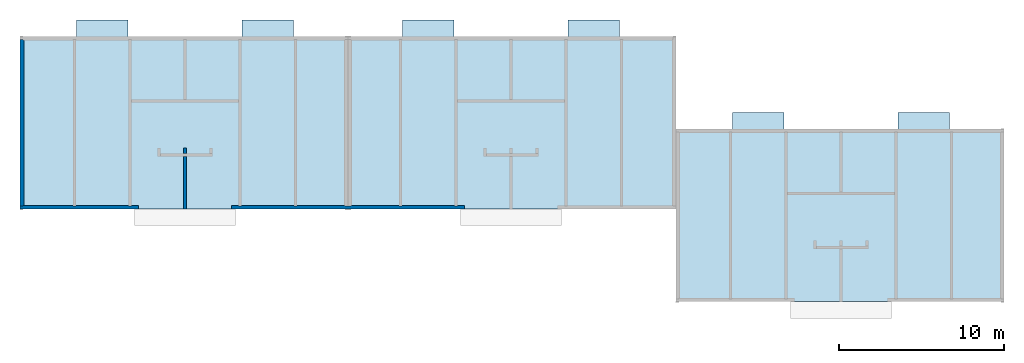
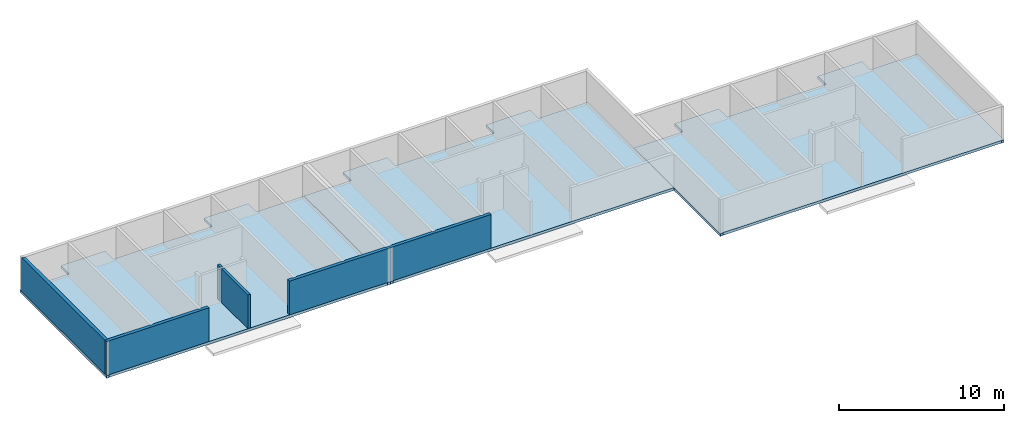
# One storey, part 8 of 10: 5 walls, 3 slabs.
"""IFC2X3 building model written with IfcOpenShell, lengths in metres."""

from ifc_helpers import new_model, si_unit, frame, origin, place, context, project, spatial, faceted_brep, element, save


model = new_model("IFC2X3")

# Units and contexts
model_context = context("Model", 3, precision=1e-06, world=origin())
ifc_project = project(units=[si_unit("LENGTHUNIT", "METRE"), si_unit("PLANEANGLEUNIT", "RADIAN")], contexts=[model_context])

# Site, building, storey
site = spatial("IfcSite", under=ifc_project, CompositionType="ELEMENT")
building = spatial("IfcBuilding", under=site, CompositionType="ELEMENT")
storey = spatial("IfcBuildingStorey", under=building, Name="r+1", CompositionType="ELEMENT", Elevation=2.7)

# Slabs
placement = place(None, origin())
slab_1_placement = place(placement, frame((-6e-15, 0.0, 2.5), z_axis=(0.0, 0.0, 1.0), x_axis=(1.0, 0.0, 0.0)))
element("IfcSlab", 1, at=slab_1_placement, inside=storey, PredefinedType="USERDEFINED", context=model_context, shape_type="Brep", body=[
    faceted_brep([(0.180000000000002, 10.49007776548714, 0.2), (0.180000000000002, 10.47007776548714, 0.2), (0.180000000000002, 10.47007776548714, 0.0), (0.180000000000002, 10.49007776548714, 0.0), (0.180000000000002, 10.47007776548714, 0.2), (3.430000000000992, 10.470077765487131, 0.2), (3.430000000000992, 10.470077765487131, 0.0), (0.180000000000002, 10.47007776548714, 0.0), (3.430000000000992, 10.470077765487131, 0.2), (3.430000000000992, 11.47007775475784, 0.2), (3.430000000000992, 11.47007775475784, 0.0), (3.430000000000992, 10.470077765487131, 0.0), (3.430000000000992, 11.47007775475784, 0.2), (6.530000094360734, 11.47007760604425, 0.2), (6.530000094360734, 11.47007760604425, 0.0), (3.430000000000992, 11.47007775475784, 0.0), (6.530000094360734, 11.47007760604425, 0.2), (6.530000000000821, 10.47007768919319, 0.2), (6.530000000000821, 10.47007768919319, 0.0), (6.530000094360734, 11.47007760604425, 0.0), (6.530000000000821, 10.47007768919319, 0.2), (13.44, 10.47007775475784, 0.2), (13.44, 10.47007775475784, 0.0), (6.530000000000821, 10.47007768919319, 0.0), (13.44, 10.47007775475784, 0.2), (13.439598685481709, 11.47007760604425, 0.2), (13.439598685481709, 11.47007760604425, 0.0), (13.44, 10.47007775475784, 0.0), (13.439598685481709, 11.47007760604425, 0.2), (16.539598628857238, 11.47007760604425, 0.2), (16.539598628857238, 11.47007760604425, 0.0), (13.439598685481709, 11.47007760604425, 0.0), (16.539598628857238, 11.47007760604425, 0.2), (16.53999999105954, 10.47007768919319, 0.2), (16.53999999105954, 10.47007768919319, 0.0), (16.539598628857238, 11.47007760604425, 0.0), (16.53999999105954, 10.47007768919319, 0.2), (19.669999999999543, 10.470077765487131, 0.2), (19.669999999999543, 10.470077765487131, 0.0), (16.53999999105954, 10.47007768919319, 0.0), (19.669999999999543, 10.470077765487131, 0.2), (19.669999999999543, 10.49007776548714, 0.2), (19.669999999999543, 10.49007776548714, 0.0), (19.669999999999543, 10.470077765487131, 0.0), (19.669999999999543, 10.49007776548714, 0.2), (19.849999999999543, 10.49007776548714, 0.2), (19.849999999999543, 10.49007776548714, 0.0), (19.669999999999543, 10.49007776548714, 0.0), (19.849999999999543, 10.49007776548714, 0.2), (19.849999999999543, 2e-15, 0.2), (19.849999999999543, 2e-15, 0.0), (19.849999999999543, 10.49007776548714, 0.0), (19.849999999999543, 2e-15, 0.2), (19.669999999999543, 2e-15, 0.2), (19.669999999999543, 2e-15, 0.0), (19.849999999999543, 2e-15, 0.0), (19.669999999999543, 2e-15, 0.2), (19.669999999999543, 0.02016279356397, 0.2), (19.669999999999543, 0.02016279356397, 0.0), (19.669999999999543, 2e-15, 0.0), (19.669999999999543, 0.02016279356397, 0.2), (13.045000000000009, 0.02016279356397, 0.2), (13.045000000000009, 0.02016279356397, 0.0), (19.669999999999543, 0.02016279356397, 0.0), (13.045000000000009, 0.02016279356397, 0.2), (6.925000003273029, 0.020077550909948, 0.2), (6.925000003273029, 0.020077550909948, 0.0), (13.045000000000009, 0.02016279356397, 0.0), (6.925000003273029, 0.020077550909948, 0.2), (0.18, 0.020077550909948, 0.2), (0.18, 0.020077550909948, 0.0), (6.925000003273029, 0.020077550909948, 0.0), (0.18, 0.020077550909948, 0.2), (0.18, 0.0, 0.2), (0.18, 0.0, 0.0), (0.18, 0.020077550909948, 0.0), (0.18, 0.0, 0.2), (0.0, 0.0, 0.2), (0.0, 0.0, 0.0), (0.18, 0.0, 0.0), (0.0, 0.0, 0.2), (2e-15, 10.49007776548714, 0.2), (2e-15, 10.49007776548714, 0.0), (0.0, 0.0, 0.0), (2e-15, 10.49007776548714, 0.2), (0.180000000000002, 10.49007776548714, 0.2), (0.180000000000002, 10.49007776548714, 0.0), (2e-15, 10.49007776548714, 0.0), (0.180000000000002, 10.49007776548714, 0.2), (2e-15, 10.49007776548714, 0.2), (0.0, 0.0, 0.2), (0.18, 0.0, 0.2), (0.18, 0.020077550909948, 0.2), (6.925000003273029, 0.020077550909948, 0.2), (13.045000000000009, 0.02016279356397, 0.2), (19.669999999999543, 0.02016279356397, 0.2), (19.669999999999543, 2e-15, 0.2), (19.849999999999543, 2e-15, 0.2), (19.849999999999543, 10.49007776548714, 0.2), (19.669999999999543, 10.49007776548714, 0.2), (19.669999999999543, 10.470077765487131, 0.2), (16.53999999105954, 10.47007768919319, 0.2), (16.539598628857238, 11.47007760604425, 0.2), (13.439598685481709, 11.47007760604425, 0.2), (13.44, 10.47007775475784, 0.2), (6.530000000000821, 10.47007768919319, 0.2), (6.530000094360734, 11.47007760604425, 0.2), (3.430000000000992, 11.47007775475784, 0.2), (3.430000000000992, 10.470077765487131, 0.2), (0.180000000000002, 10.47007776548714, 0.2), (0.180000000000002, 10.49007776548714, 0.0), (0.180000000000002, 10.47007776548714, 0.0), (3.430000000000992, 10.470077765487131, 0.0), (3.430000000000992, 11.47007775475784, 0.0), (6.530000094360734, 11.47007760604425, 0.0), (6.530000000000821, 10.47007768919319, 0.0), (13.44, 10.47007775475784, 0.0), (13.439598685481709, 11.47007760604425, 0.0), (16.539598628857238, 11.47007760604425, 0.0), (16.53999999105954, 10.47007768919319, 0.0), (19.669999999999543, 10.470077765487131, 0.0), (19.669999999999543, 10.49007776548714, 0.0), (19.849999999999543, 10.49007776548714, 0.0), (19.849999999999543, 2e-15, 0.0), (19.669999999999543, 2e-15, 0.0), (19.669999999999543, 0.02016279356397, 0.0), (13.045000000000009, 0.02016279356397, 0.0), (6.925000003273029, 0.020077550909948, 0.0), (0.18, 0.020077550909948, 0.0), (0.18, 0.0, 0.0), (0.0, 0.0, 0.0), (2e-15, 10.49007776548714, 0.0)], [[[0, 1, 2, 3]], [[4, 5, 6, 7]], [[8, 9, 10, 11]], [[12, 13, 14, 15]], [[16, 17, 18, 19]], [[20, 21, 22, 23]], [[24, 25, 26, 27]], [[28, 29, 30, 31]], [[32, 33, 34, 35]], [[36, 37, 38, 39]], [[40, 41, 42, 43]], [[44, 45, 46, 47]], [[48, 49, 50, 51]], [[52, 53, 54, 55]], [[56, 57, 58, 59]], [[60, 61, 62, 63]], [[64, 65, 66, 67]], [[68, 69, 70, 71]], [[72, 73, 74, 75]], [[76, 77, 78, 79]], [[80, 81, 82, 83]], [[84, 85, 86, 87]], [[88, 89, 90, 91, 92, 93, 94, 95, 96, 97, 98, 99, 100, 101, 102, 103, 104, 105, 106, 107, 108, 109]], [[110, 111, 112, 113, 114, 115, 116, 117, 118, 119, 120, 121, 122, 123, 124, 125, 126, 127, 128, 129, 130, 131]]]),
])
slab_2_placement = place(placement, frame((19.849999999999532, 2e-15, 2.5), z_axis=(0.0, 0.0, 1.0), x_axis=(1.0, 0.0, 0.0)))
element("IfcSlab", 2, at=slab_2_placement, inside=storey, PredefinedType="USERDEFINED", context=model_context, shape_type="Brep", body=[
    faceted_brep([(0.180000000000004, 10.490077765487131, 0.2), (0.180000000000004, 10.470077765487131, 0.2), (0.180000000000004, 10.470077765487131, 0.0), (0.180000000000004, 10.490077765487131, 0.0), (0.180000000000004, 10.470077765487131, 0.2), (3.310000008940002, 10.47007768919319, 0.2), (3.310000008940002, 10.47007768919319, 0.0), (0.180000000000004, 10.470077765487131, 0.0), (3.310000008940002, 10.47007768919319, 0.2), (3.310401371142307, 11.47007760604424, 0.2), (3.310401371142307, 11.47007760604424, 0.0), (3.310000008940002, 10.47007768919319, 0.0), (3.310401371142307, 11.47007760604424, 0.2), (6.410401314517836, 11.47007760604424, 0.2), (6.410401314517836, 11.47007760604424, 0.0), (3.310401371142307, 11.47007760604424, 0.0), (6.410401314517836, 11.47007760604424, 0.2), (6.409999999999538, 10.47007775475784, 0.2), (6.409999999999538, 10.47007775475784, 0.0), (6.410401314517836, 11.47007760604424, 0.0), (6.409999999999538, 10.47007775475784, 0.2), (13.31999999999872, 10.47007768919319, 0.2), (13.31999999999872, 10.47007768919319, 0.0), (6.409999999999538, 10.47007775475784, 0.0), (13.31999999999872, 10.47007768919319, 0.2), (13.31999990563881, 11.47007760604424, 0.2), (13.31999990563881, 11.47007760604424, 0.0), (13.31999999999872, 10.47007768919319, 0.0), (13.31999990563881, 11.47007760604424, 0.2), (16.41999999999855, 11.47007775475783, 0.2), (16.41999999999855, 11.47007775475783, 0.0), (13.31999990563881, 11.47007760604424, 0.0), (16.41999999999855, 11.47007775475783, 0.2), (16.41999999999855, 10.470077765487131, 0.2), (16.41999999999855, 10.470077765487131, 0.0), (16.41999999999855, 11.47007775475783, 0.0), (16.41999999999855, 10.470077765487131, 0.2), (19.669999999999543, 10.470077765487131, 0.2), (19.669999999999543, 10.470077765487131, 0.0), (16.41999999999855, 10.470077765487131, 0.0), (19.669999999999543, 10.470077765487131, 0.2), (19.669999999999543, 10.490077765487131, 0.2), (19.669999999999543, 10.490077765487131, 0.0), (19.669999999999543, 10.470077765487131, 0.0), (19.669999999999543, 10.490077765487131, 0.2), (19.849999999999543, 10.490077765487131, 0.2), (19.849999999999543, 10.490077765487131, 0.0), (19.669999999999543, 10.490077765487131, 0.0), (19.849999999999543, 10.490077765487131, 0.2), (19.849999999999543, 0.020077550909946, 0.2), (19.849999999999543, 0.020077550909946, 0.0), (19.849999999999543, 10.490077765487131, 0.0), (19.849999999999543, 0.020077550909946, 0.2), (12.92499999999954, 0.020077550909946, 0.2), (12.92499999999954, 0.020077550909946, 0.0), (19.849999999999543, 0.020077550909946, 0.0), (12.92499999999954, 0.020077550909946, 0.2), (6.805000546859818, 0.020077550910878, 0.2), (6.805000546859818, 0.020077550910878, 0.0), (12.92499999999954, 0.020077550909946, 0.0), (6.805000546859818, 0.020077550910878, 0.2), (6.805000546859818, 0.020162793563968, 0.2), (6.805000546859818, 0.020162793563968, 0.0), (6.805000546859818, 0.020077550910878, 0.0), (6.805000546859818, 0.020162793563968, 0.2), (0.18, 0.020162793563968, 0.2), (0.18, 0.020162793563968, 0.0), (6.805000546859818, 0.020162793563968, 0.0), (0.18, 0.020162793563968, 0.2), (0.18, 0.0, 0.2), (0.18, 0.0, 0.0), (0.18, 0.020162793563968, 0.0), (0.18, 0.0, 0.2), (0.0, 0.0, 0.2), (0.0, 0.0, 0.0), (0.18, 0.0, 0.0), (0.0, 0.0, 0.2), (4e-15, 10.490077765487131, 0.2), (4e-15, 10.490077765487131, 0.0), (0.0, 0.0, 0.0), (4e-15, 10.490077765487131, 0.2), (0.180000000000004, 10.490077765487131, 0.2), (0.180000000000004, 10.490077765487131, 0.0), (4e-15, 10.490077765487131, 0.0), (0.180000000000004, 10.490077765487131, 0.2), (4e-15, 10.490077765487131, 0.2), (0.0, 0.0, 0.2), (0.18, 0.0, 0.2), (0.18, 0.020162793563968, 0.2), (6.805000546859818, 0.020162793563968, 0.2), (6.805000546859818, 0.020077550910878, 0.2), (12.92499999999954, 0.020077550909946, 0.2), (19.849999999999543, 0.020077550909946, 0.2), (19.849999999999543, 10.490077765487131, 0.2), (19.669999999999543, 10.490077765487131, 0.2), (19.669999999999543, 10.470077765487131, 0.2), (16.41999999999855, 10.470077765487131, 0.2), (16.41999999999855, 11.47007775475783, 0.2), (13.31999990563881, 11.47007760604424, 0.2), (13.31999999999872, 10.47007768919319, 0.2), (6.409999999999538, 10.47007775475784, 0.2), (6.410401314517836, 11.47007760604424, 0.2), (3.310401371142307, 11.47007760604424, 0.2), (3.310000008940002, 10.47007768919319, 0.2), (0.180000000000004, 10.470077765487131, 0.2), (0.180000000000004, 10.490077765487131, 0.0), (0.180000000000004, 10.470077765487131, 0.0), (3.310000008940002, 10.47007768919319, 0.0), (3.310401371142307, 11.47007760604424, 0.0), (6.410401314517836, 11.47007760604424, 0.0), (6.409999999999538, 10.47007775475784, 0.0), (13.31999999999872, 10.47007768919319, 0.0), (13.31999990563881, 11.47007760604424, 0.0), (16.41999999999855, 11.47007775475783, 0.0), (16.41999999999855, 10.470077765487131, 0.0), (19.669999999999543, 10.470077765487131, 0.0), (19.669999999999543, 10.490077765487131, 0.0), (19.849999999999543, 10.490077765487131, 0.0), (19.849999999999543, 0.020077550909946, 0.0), (12.92499999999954, 0.020077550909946, 0.0), (6.805000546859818, 0.020077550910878, 0.0), (6.805000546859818, 0.020162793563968, 0.0), (0.18, 0.020162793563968, 0.0), (0.18, 0.0, 0.0), (0.0, 0.0, 0.0), (4e-15, 10.490077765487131, 0.0)], [[[0, 1, 2, 3]], [[4, 5, 6, 7]], [[8, 9, 10, 11]], [[12, 13, 14, 15]], [[16, 17, 18, 19]], [[20, 21, 22, 23]], [[24, 25, 26, 27]], [[28, 29, 30, 31]], [[32, 33, 34, 35]], [[36, 37, 38, 39]], [[40, 41, 42, 43]], [[44, 45, 46, 47]], [[48, 49, 50, 51]], [[52, 53, 54, 55]], [[56, 57, 58, 59]], [[60, 61, 62, 63]], [[64, 65, 66, 67]], [[68, 69, 70, 71]], [[72, 73, 74, 75]], [[76, 77, 78, 79]], [[80, 81, 82, 83]], [[84, 85, 86, 87, 88, 89, 90, 91, 92, 93, 94, 95, 96, 97, 98, 99, 100, 101, 102, 103, 104]], [[105, 106, 107, 108, 109, 110, 111, 112, 113, 114, 115, 116, 117, 118, 119, 120, 121, 122, 123, 124, 125]]]),
])
slab_3_placement = place(placement, frame((39.69999999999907, -5.599999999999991, 2.5), z_axis=(0.0, 0.0, 1.0), x_axis=(1.0, 0.0, 0.0)))
element("IfcSlab", 3, at=slab_3_placement, inside=storey, PredefinedType="USERDEFINED", context=model_context, shape_type="Brep", body=[
    faceted_brep([(0.18, 10.47007776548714, 0.2), (3.430000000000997, 10.470077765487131, 0.2), (3.430000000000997, 10.470077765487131, 0.0), (0.18, 10.47007776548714, 0.0), (3.430000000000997, 10.470077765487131, 0.2), (3.430000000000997, 11.47007775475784, 0.2), (3.430000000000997, 11.47007775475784, 0.0), (3.430000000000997, 10.470077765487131, 0.0), (3.430000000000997, 11.47007775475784, 0.2), (6.530000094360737, 11.47007760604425, 0.2), (6.530000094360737, 11.47007760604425, 0.0), (3.430000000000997, 11.47007775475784, 0.0), (6.530000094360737, 11.47007760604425, 0.2), (6.530000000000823, 10.47007768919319, 0.2), (6.530000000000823, 10.47007768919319, 0.0), (6.530000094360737, 11.47007760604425, 0.0), (6.530000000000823, 10.47007768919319, 0.2), (13.44000000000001, 10.47007775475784, 0.2), (13.44000000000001, 10.47007775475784, 0.0), (6.530000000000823, 10.47007768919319, 0.0), (13.44000000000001, 10.47007775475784, 0.2), (13.439598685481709, 11.47007760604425, 0.2), (13.439598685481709, 11.47007760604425, 0.0), (13.44000000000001, 10.47007775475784, 0.0), (13.439598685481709, 11.47007760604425, 0.2), (16.539598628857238, 11.47007760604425, 0.2), (16.539598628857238, 11.47007760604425, 0.0), (13.439598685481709, 11.47007760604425, 0.0), (16.539598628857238, 11.47007760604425, 0.2), (16.53999999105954, 10.47007768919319, 0.2), (16.53999999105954, 10.47007768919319, 0.0), (16.539598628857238, 11.47007760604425, 0.0), (16.53999999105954, 10.47007768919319, 0.2), (19.669999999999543, 10.470077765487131, 0.2), (19.669999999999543, 10.470077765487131, 0.0), (16.53999999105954, 10.47007768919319, 0.0), (19.669999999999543, 10.470077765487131, 0.2), (19.669999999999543, 10.49007776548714, 0.2), (19.669999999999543, 10.49007776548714, 0.0), (19.669999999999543, 10.470077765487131, 0.0), (19.669999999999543, 10.49007776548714, 0.2), (19.849999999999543, 10.49007776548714, 0.2), (19.849999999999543, 10.49007776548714, 0.0), (19.669999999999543, 10.49007776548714, 0.0), (19.849999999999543, 10.49007776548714, 0.2), (19.849999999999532, 2e-15, 0.2), (19.849999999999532, 2e-15, 0.0), (19.849999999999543, 10.49007776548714, 0.0), (19.849999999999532, 2e-15, 0.2), (19.669999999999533, 2e-15, 0.2), (19.669999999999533, 2e-15, 0.0), (19.849999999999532, 2e-15, 0.0), (19.669999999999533, 2e-15, 0.2), (19.669999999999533, 0.02016279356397, 0.2), (19.669999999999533, 0.02016279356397, 0.0), (19.669999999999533, 2e-15, 0.0), (19.669999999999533, 0.02016279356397, 0.2), (13.04500000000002, 0.02016279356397, 0.2), (13.04500000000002, 0.02016279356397, 0.0), (19.669999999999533, 0.02016279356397, 0.0), (13.04500000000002, 0.02016279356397, 0.2), (6.925000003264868, 0.020077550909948, 0.2), (6.925000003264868, 0.020077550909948, 0.0), (13.04500000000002, 0.02016279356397, 0.0), (6.925000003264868, 0.020077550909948, 0.2), (0.18, 0.020077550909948, 0.2), (0.18, 0.020077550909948, 0.0), (6.925000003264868, 0.020077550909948, 0.0), (0.18, 0.020077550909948, 0.2), (0.18, 0.0, 0.2), (0.18, 0.0, 0.0), (0.18, 0.020077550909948, 0.0), (0.18, 0.0, 0.2), (0.0, 0.0, 0.2), (0.0, 0.0, 0.0), (0.18, 0.0, 0.0), (0.0, 0.0, 0.2), (7e-15, 10.47007776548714, 0.2), (7e-15, 10.47007776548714, 0.0), (0.0, 0.0, 0.0), (7e-15, 10.47007776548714, 0.2), (0.18, 10.47007776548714, 0.2), (0.18, 10.47007776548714, 0.0), (7e-15, 10.47007776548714, 0.0), (0.18, 10.47007776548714, 0.2), (7e-15, 10.47007776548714, 0.2), (0.0, 0.0, 0.2), (0.18, 0.0, 0.2), (0.18, 0.020077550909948, 0.2), (6.925000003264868, 0.020077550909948, 0.2), (13.04500000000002, 0.02016279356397, 0.2), (19.669999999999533, 0.02016279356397, 0.2), (19.669999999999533, 2e-15, 0.2), (19.849999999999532, 2e-15, 0.2), (19.849999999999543, 10.49007776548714, 0.2), (19.669999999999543, 10.49007776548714, 0.2), (19.669999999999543, 10.470077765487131, 0.2), (16.53999999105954, 10.47007768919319, 0.2), (16.539598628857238, 11.47007760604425, 0.2), (13.439598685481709, 11.47007760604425, 0.2), (13.44000000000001, 10.47007775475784, 0.2), (6.530000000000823, 10.47007768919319, 0.2), (6.530000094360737, 11.47007760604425, 0.2), (3.430000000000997, 11.47007775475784, 0.2), (3.430000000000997, 10.470077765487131, 0.2), (0.18, 10.47007776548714, 0.0), (3.430000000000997, 10.470077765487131, 0.0), (3.430000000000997, 11.47007775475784, 0.0), (6.530000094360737, 11.47007760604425, 0.0), (6.530000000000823, 10.47007768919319, 0.0), (13.44000000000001, 10.47007775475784, 0.0), (13.439598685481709, 11.47007760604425, 0.0), (16.539598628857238, 11.47007760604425, 0.0), (16.53999999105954, 10.47007768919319, 0.0), (19.669999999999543, 10.470077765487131, 0.0), (19.669999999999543, 10.49007776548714, 0.0), (19.849999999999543, 10.49007776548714, 0.0), (19.849999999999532, 2e-15, 0.0), (19.669999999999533, 2e-15, 0.0), (19.669999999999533, 0.02016279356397, 0.0), (13.04500000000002, 0.02016279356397, 0.0), (6.925000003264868, 0.020077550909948, 0.0), (0.18, 0.020077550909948, 0.0), (0.18, 0.0, 0.0), (0.0, 0.0, 0.0), (7e-15, 10.47007776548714, 0.0)], [[[0, 1, 2, 3]], [[4, 5, 6, 7]], [[8, 9, 10, 11]], [[12, 13, 14, 15]], [[16, 17, 18, 19]], [[20, 21, 22, 23]], [[24, 25, 26, 27]], [[28, 29, 30, 31]], [[32, 33, 34, 35]], [[36, 37, 38, 39]], [[40, 41, 42, 43]], [[44, 45, 46, 47]], [[48, 49, 50, 51]], [[52, 53, 54, 55]], [[56, 57, 58, 59]], [[60, 61, 62, 63]], [[64, 65, 66, 67]], [[68, 69, 70, 71]], [[72, 73, 74, 75]], [[76, 77, 78, 79]], [[80, 81, 82, 83]], [[84, 85, 86, 87, 88, 89, 90, 91, 92, 93, 94, 95, 96, 97, 98, 99, 100, 101, 102, 103, 104]], [[105, 106, 107, 108, 109, 110, 111, 112, 113, 114, 115, 116, 117, 118, 119, 120, 121, 122, 123, 124, 125]]]),
])

# Walls
wall_1_placement = place(placement, frame((-4e-15, 10.29007776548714, 2.7), z_axis=(0.0, 0.0, 1.0), x_axis=(0.0, -1.0, 0.0)))
element("IfcWall", 4, at=wall_1_placement, inside=storey, context=model_context, shape_type="Brep", body=[
    faceted_brep([(0.04, 0.18, 2.5), (0.04, 0.22, 2.5), (0.04, 0.22, 0.0), (0.04, 0.18, 0.0), (0.04, 0.22, 2.5), (0.05, 0.22, 2.5), (0.05, 0.22, 0.0), (0.04, 0.22, 0.0), (0.05, 0.22, 2.5), (0.05, 0.23, 2.5), (0.05, 0.23, 0.0), (0.05, 0.22, 0.0), (0.05, 0.23, 2.5), (10.04000021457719, 0.23, 2.5), (10.04000021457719, 0.23, 0.0), (0.05, 0.23, 0.0), (10.04000021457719, 0.23, 2.5), (10.04000021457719, 0.22, 2.5), (10.04000021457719, 0.22, 0.0), (10.04000021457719, 0.23, 0.0), (10.04000021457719, 0.22, 2.5), (10.05000021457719, 0.22, 2.5), (10.05000021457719, 0.22, 0.0), (10.04000021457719, 0.22, 0.0), (10.05000021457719, 0.22, 2.5), (10.05000021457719, 0.18, 2.5), (10.05000021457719, 0.18, 0.0), (10.05000021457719, 0.22, 0.0), (10.05000021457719, 0.18, 2.5), (10.090000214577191, 0.18, 2.5), (10.090000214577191, 0.18, 0.0), (10.05000021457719, 0.18, 0.0), (10.090000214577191, 0.18, 2.5), (10.090000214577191, 0.0, 2.5), (10.090000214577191, 0.0, 0.0), (10.090000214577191, 0.18, 0.0), (10.090000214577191, 0.0, 2.5), (0.0, 0.0, 2.5), (0.0, 0.0, 0.0), (10.090000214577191, 0.0, 0.0), (0.0, 0.0, 2.5), (0.0, 0.18, 2.5), (0.0, 0.18, 0.0), (0.0, 0.0, 0.0), (0.0, 0.18, 2.5), (0.04, 0.18, 2.5), (0.04, 0.18, 0.0), (0.0, 0.18, 0.0), (0.04, 0.18, 2.5), (0.0, 0.18, 2.5), (0.0, 0.0, 2.5), (10.090000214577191, 0.0, 2.5), (10.090000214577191, 0.18, 2.5), (10.05000021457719, 0.18, 2.5), (10.05000021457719, 0.22, 2.5), (10.04000021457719, 0.22, 2.5), (10.04000021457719, 0.23, 2.5), (0.05, 0.23, 2.5), (0.05, 0.22, 2.5), (0.04, 0.22, 2.5), (0.04, 0.18, 0.0), (0.04, 0.22, 0.0), (0.05, 0.22, 0.0), (0.05, 0.23, 0.0), (10.04000021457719, 0.23, 0.0), (10.04000021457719, 0.22, 0.0), (10.05000021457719, 0.22, 0.0), (10.05000021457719, 0.18, 0.0), (10.090000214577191, 0.18, 0.0), (10.090000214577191, 0.0, 0.0), (0.0, 0.0, 0.0), (0.0, 0.18, 0.0)], [[[0, 1, 2, 3]], [[4, 5, 6, 7]], [[8, 9, 10, 11]], [[12, 13, 14, 15]], [[16, 17, 18, 19]], [[20, 21, 22, 23]], [[24, 25, 26, 27]], [[28, 29, 30, 31]], [[32, 33, 34, 35]], [[36, 37, 38, 39]], [[40, 41, 42, 43]], [[44, 45, 46, 47]], [[48, 49, 50, 51, 52, 53, 54, 55, 56, 57, 58, 59]], [[60, 61, 62, 63, 64, 65, 66, 67, 68, 69, 70, 71]]]),
])
wall_2_placement = place(placement, frame((12.795000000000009, 0.02016279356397, 2.7), z_axis=(0.0, 0.0, 1.0), x_axis=(1.0, 0.0, 0.0)))
element("IfcWall", 5, at=wall_2_placement, inside=storey, context=model_context, shape_type="Brep", body=[
    faceted_brep([(10.13499999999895, 0.179914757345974, 2.5), (10.314999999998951, 0.179914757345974, 2.5), (10.314999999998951, 0.179914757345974, 0.0), (10.13499999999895, 0.179914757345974, 0.0), (10.314999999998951, 0.179914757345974, 2.5), (10.314999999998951, 0.23, 2.5), (10.314999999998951, 0.23, 0.0), (10.314999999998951, 0.179914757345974, 0.0), (10.314999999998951, 0.23, 2.5), (13.5150000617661, 0.23, 2.5), (13.5150000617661, 0.23, 0.0), (10.314999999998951, 0.23, 0.0), (13.5150000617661, 0.23, 2.5), (13.5150000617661, 0.179914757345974, 2.5), (13.5150000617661, 0.179914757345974, 0.0), (13.5150000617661, 0.23, 0.0), (13.5150000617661, 0.179914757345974, 2.5), (13.695000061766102, 0.179914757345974, 2.5), (13.695000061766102, 0.179914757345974, 0.0), (13.5150000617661, 0.179914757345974, 0.0), (13.695000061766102, 0.179914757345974, 2.5), (13.695000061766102, 0.23, 2.5), (13.695000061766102, 0.23, 0.0), (13.695000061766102, 0.179914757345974, 0.0), (13.695000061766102, 0.23, 2.5), (14.110000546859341, 0.23, 2.5), (14.110000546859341, 0.23, 0.0), (13.695000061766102, 0.23, 0.0), (14.110000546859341, 0.23, 2.5), (14.110000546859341, 0.0, 2.5), (14.110000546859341, 0.0, 0.0), (14.110000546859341, 0.23, 0.0), (14.110000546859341, 0.0, 2.5), (0.0, 0.0, 2.5), (0.0, 0.0, 0.0), (14.110000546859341, 0.0, 0.0), (0.0, 0.0, 2.5), (0.0, 0.23, 2.5), (0.0, 0.23, 0.0), (0.0, 0.0, 0.0), (0.0, 0.23, 2.5), (0.4149999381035, 0.23, 2.5), (0.4149999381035, 0.23, 0.0), (0.0, 0.23, 0.0), (0.4149999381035, 0.23, 2.5), (0.4149999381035, 0.179914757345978, 2.5), (0.4149999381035, 0.179914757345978, 0.0), (0.4149999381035, 0.23, 0.0), (0.4149999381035, 0.179914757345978, 2.5), (0.594999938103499, 0.179914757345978, 2.5), (0.594999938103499, 0.179914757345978, 0.0), (0.4149999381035, 0.179914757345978, 0.0), (0.594999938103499, 0.179914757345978, 2.5), (0.594999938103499, 0.23, 2.5), (0.594999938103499, 0.23, 0.0), (0.594999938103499, 0.179914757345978, 0.0), (0.594999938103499, 0.23, 2.5), (3.795000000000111, 0.23, 2.5), (3.795000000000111, 0.23, 0.0), (0.594999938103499, 0.23, 0.0), (3.795000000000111, 0.23, 2.5), (3.795000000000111, 0.179914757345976, 2.5), (3.795000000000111, 0.179914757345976, 0.0), (3.795000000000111, 0.23, 0.0), (3.795000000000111, 0.179914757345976, 2.5), (3.975000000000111, 0.179914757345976, 2.5), (3.975000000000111, 0.179914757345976, 0.0), (3.795000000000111, 0.179914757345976, 0.0), (3.975000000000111, 0.179914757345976, 2.5), (3.975000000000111, 0.23, 2.5), (3.975000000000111, 0.23, 0.0), (3.975000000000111, 0.179914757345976, 0.0), (3.975000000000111, 0.23, 2.5), (6.834999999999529, 0.23, 2.5), (6.834999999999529, 0.23, 0.0), (3.975000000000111, 0.23, 0.0), (6.834999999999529, 0.23, 2.5), (6.834999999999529, 0.22, 2.5), (6.834999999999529, 0.22, 0.0), (6.834999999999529, 0.23, 0.0), (6.834999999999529, 0.22, 2.5), (6.874999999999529, 0.22, 2.5), (6.874999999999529, 0.22, 0.0), (6.834999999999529, 0.22, 0.0), (6.874999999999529, 0.22, 2.5), (6.874999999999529, 0.18, 2.5), (6.874999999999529, 0.18, 0.0), (6.874999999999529, 0.22, 0.0), (6.874999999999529, 0.18, 2.5), (7.234999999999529, 0.18, 2.5), (7.234999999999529, 0.18, 0.0), (6.874999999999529, 0.18, 0.0), (7.234999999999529, 0.18, 2.5), (7.234999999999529, 0.22, 2.5), (7.234999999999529, 0.22, 0.0), (7.234999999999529, 0.18, 0.0), (7.234999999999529, 0.22, 2.5), (7.274999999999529, 0.22, 2.5), (7.274999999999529, 0.22, 0.0), (7.234999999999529, 0.22, 0.0), (7.274999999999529, 0.22, 2.5), (7.274999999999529, 0.23, 2.5), (7.274999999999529, 0.23, 0.0), (7.274999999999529, 0.22, 0.0), (7.274999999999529, 0.23, 2.5), (10.13499999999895, 0.23, 2.5), (10.13499999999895, 0.23, 0.0), (7.274999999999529, 0.23, 0.0), (10.13499999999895, 0.23, 2.5), (10.13499999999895, 0.179914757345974, 2.5), (10.13499999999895, 0.179914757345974, 0.0), (10.13499999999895, 0.23, 0.0), (10.13499999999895, 0.179914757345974, 2.5), (10.13499999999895, 0.23, 2.5), (7.274999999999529, 0.23, 2.5), (7.274999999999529, 0.22, 2.5), (7.234999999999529, 0.22, 2.5), (7.234999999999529, 0.18, 2.5), (6.874999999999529, 0.18, 2.5), (6.874999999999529, 0.22, 2.5), (6.834999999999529, 0.22, 2.5), (6.834999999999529, 0.23, 2.5), (3.975000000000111, 0.23, 2.5), (3.975000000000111, 0.179914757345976, 2.5), (3.795000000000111, 0.179914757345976, 2.5), (3.795000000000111, 0.23, 2.5), (0.594999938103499, 0.23, 2.5), (0.594999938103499, 0.179914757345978, 2.5), (0.4149999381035, 0.179914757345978, 2.5), (0.4149999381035, 0.23, 2.5), (0.0, 0.23, 2.5), (0.0, 0.0, 2.5), (14.110000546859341, 0.0, 2.5), (14.110000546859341, 0.23, 2.5), (13.695000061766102, 0.23, 2.5), (13.695000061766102, 0.179914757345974, 2.5), (13.5150000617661, 0.179914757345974, 2.5), (13.5150000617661, 0.23, 2.5), (10.314999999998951, 0.23, 2.5), (10.314999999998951, 0.179914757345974, 2.5), (10.13499999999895, 0.179914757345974, 0.0), (10.314999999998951, 0.179914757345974, 0.0), (10.314999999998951, 0.23, 0.0), (13.5150000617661, 0.23, 0.0), (13.5150000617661, 0.179914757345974, 0.0), (13.695000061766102, 0.179914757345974, 0.0), (13.695000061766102, 0.23, 0.0), (14.110000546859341, 0.23, 0.0), (14.110000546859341, 0.0, 0.0), (0.0, 0.0, 0.0), (0.0, 0.23, 0.0), (0.4149999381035, 0.23, 0.0), (0.4149999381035, 0.179914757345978, 0.0), (0.594999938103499, 0.179914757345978, 0.0), (0.594999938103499, 0.23, 0.0), (3.795000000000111, 0.23, 0.0), (3.795000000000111, 0.179914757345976, 0.0), (3.975000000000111, 0.179914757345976, 0.0), (3.975000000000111, 0.23, 0.0), (6.834999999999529, 0.23, 0.0), (6.834999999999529, 0.22, 0.0), (6.874999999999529, 0.22, 0.0), (6.874999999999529, 0.18, 0.0), (7.234999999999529, 0.18, 0.0), (7.234999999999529, 0.22, 0.0), (7.274999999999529, 0.22, 0.0), (7.274999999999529, 0.23, 0.0), (10.13499999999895, 0.23, 0.0)], [[[0, 1, 2, 3]], [[4, 5, 6, 7]], [[8, 9, 10, 11]], [[12, 13, 14, 15]], [[16, 17, 18, 19]], [[20, 21, 22, 23]], [[24, 25, 26, 27]], [[28, 29, 30, 31]], [[32, 33, 34, 35]], [[36, 37, 38, 39]], [[40, 41, 42, 43]], [[44, 45, 46, 47]], [[48, 49, 50, 51]], [[52, 53, 54, 55]], [[56, 57, 58, 59]], [[60, 61, 62, 63]], [[64, 65, 66, 67]], [[68, 69, 70, 71]], [[72, 73, 74, 75]], [[76, 77, 78, 79]], [[80, 81, 82, 83]], [[84, 85, 86, 87]], [[88, 89, 90, 91]], [[92, 93, 94, 95]], [[96, 97, 98, 99]], [[100, 101, 102, 103]], [[104, 105, 106, 107]], [[108, 109, 110, 111]], [[112, 113, 114, 115, 116, 117, 118, 119, 120, 121, 122, 123, 124, 125, 126, 127, 128, 129, 130, 131, 132, 133, 134, 135, 136, 137, 138, 139]], [[140, 141, 142, 143, 144, 145, 146, 147, 148, 149, 150, 151, 152, 153, 154, 155, 156, 157, 158, 159, 160, 161, 162, 163, 164, 165, 166, 167]]]),
])
wall_3_placement = place(placement, frame((10.075000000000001, 0.020038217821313, 2.7), z_axis=(0.0, 0.0, 1.0), x_axis=(0.0, 1.0, 0.0)))
element("IfcWall", 6, at=wall_3_placement, inside=storey, context=model_context, shape_type="Brep", body=[
    faceted_brep([(3.700039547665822, 0.18, 2.5), (3.700039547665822, 0.0, 2.5), (3.700039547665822, 0.0, 0.0), (3.700039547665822, 0.18, 0.0), (3.700039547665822, 0.0, 2.5), (3.380039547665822, 0.0, 2.5), (3.380039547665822, 0.0, 0.0), (3.700039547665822, 0.0, 0.0), (3.380039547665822, 0.0, 2.5), (3.380039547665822, 0.18, 2.5), (3.380039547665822, 0.18, 0.0), (3.380039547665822, 0.0, 0.0), (3.380039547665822, 0.18, 2.5), (3.700039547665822, 0.18, 2.5), (3.700039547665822, 0.18, 0.0), (3.380039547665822, 0.18, 0.0), (3.700039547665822, 0.18, 2.5), (3.380039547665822, 0.18, 2.5), (3.380039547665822, 0.0, 2.5), (3.700039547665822, 0.0, 2.5), (3.700039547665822, 0.18, 0.0), (3.700039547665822, 0.0, 0.0), (3.380039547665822, 0.0, 0.0), (3.380039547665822, 0.18, 0.0)], [[[0, 1, 2, 3]], [[4, 5, 6, 7]], [[8, 9, 10, 11]], [[12, 13, 14, 15]], [[16, 17, 18, 19]], [[20, 21, 22, 23]]]),
])
wall_4_placement = place(placement, frame((10.075000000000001, 0.020038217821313, 2.7), z_axis=(0.0, 0.0, 1.0), x_axis=(0.0, 1.0, 0.0)))
element("IfcWall", 7, at=wall_4_placement, inside=storey, context=model_context, shape_type="Brep", body=[
    faceted_brep([(3.200039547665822, 0.18, 2.5), (3.200039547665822, 0.0, 2.5), (3.200039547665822, 0.0, 0.0), (3.200039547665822, 0.18, 0.0), (3.200039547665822, 0.0, 2.5), (0.0, 0.0, 2.5), (0.0, 0.0, 0.0), (3.200039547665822, 0.0, 0.0), (0.0, 0.0, 2.5), (7.16957565e-07, 0.18, 2.5), (7.16957565e-07, 0.18, 0.0), (0.0, 0.0, 0.0), (7.16957565e-07, 0.18, 2.5), (3.200039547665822, 0.18, 2.5), (3.200039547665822, 0.18, 0.0), (7.16957565e-07, 0.18, 0.0), (3.200039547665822, 0.18, 2.5), (7.16957565e-07, 0.18, 2.5), (0.0, 0.0, 2.5), (3.200039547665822, 0.0, 2.5), (3.200039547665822, 0.18, 0.0), (3.200039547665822, 0.0, 0.0), (0.0, 0.0, 0.0), (7.16957565e-07, 0.18, 0.0)], [[[0, 1, 2, 3]], [[4, 5, 6, 7]], [[8, 9, 10, 11]], [[12, 13, 14, 15]], [[16, 17, 18, 19]], [[20, 21, 22, 23]]]),
])
wall_5_placement = place(placement, frame((-6e-15, 0.020077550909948, 2.7), z_axis=(0.0, 0.0, 1.0), x_axis=(1.0, 0.0, 0.0)))
element("IfcWall", 8, at=wall_5_placement, inside=storey, context=model_context, shape_type="Brep", body=[
    faceted_brep([(7.175000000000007, 0.0, 2.5), (0.0, 0.0, 2.5), (0.0, 0.0, 0.0), (7.175000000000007, 0.0, 0.0), (0.0, 0.0, 2.5), (0.0, 0.18, 2.5), (0.0, 0.18, 0.0), (0.0, 0.0, 0.0), (0.0, 0.18, 2.5), (0.18, 0.18, 2.5), (0.18, 0.18, 0.0), (0.0, 0.18, 0.0), (0.18, 0.18, 2.5), (0.18, 0.22, 2.5), (0.18, 0.22, 0.0), (0.18, 0.18, 0.0), (0.18, 0.22, 2.5), (0.22, 0.22, 2.5), (0.22, 0.22, 0.0), (0.18, 0.22, 0.0), (0.22, 0.22, 2.5), (0.22, 0.23, 2.5), (0.22, 0.23, 0.0), (0.22, 0.22, 0.0), (0.22, 0.23, 2.5), (3.200000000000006, 0.23, 2.5), (3.200000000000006, 0.23, 0.0), (0.22, 0.23, 0.0), (3.200000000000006, 0.23, 2.5), (3.200000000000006, 0.18, 2.5), (3.200000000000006, 0.18, 0.0), (3.200000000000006, 0.23, 0.0), (3.200000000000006, 0.18, 2.5), (3.380000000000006, 0.18, 2.5), (3.380000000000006, 0.18, 0.0), (3.200000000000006, 0.18, 0.0), (3.380000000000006, 0.18, 2.5), (3.380000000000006, 0.23, 2.5), (3.380000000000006, 0.23, 0.0), (3.380000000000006, 0.18, 0.0), (3.380000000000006, 0.23, 2.5), (6.580000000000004, 0.23, 2.5), (6.580000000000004, 0.23, 0.0), (3.380000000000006, 0.23, 0.0), (6.580000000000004, 0.23, 2.5), (6.580000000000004, 0.18, 2.5), (6.580000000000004, 0.18, 0.0), (6.580000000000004, 0.23, 0.0), (6.580000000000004, 0.18, 2.5), (6.760000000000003, 0.18, 2.5), (6.760000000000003, 0.18, 0.0), (6.580000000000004, 0.18, 0.0), (6.760000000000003, 0.18, 2.5), (6.760000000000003, 0.23, 2.5), (6.760000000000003, 0.23, 0.0), (6.760000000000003, 0.18, 0.0), (6.760000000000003, 0.23, 2.5), (7.175000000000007, 0.23, 2.5), (7.175000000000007, 0.23, 0.0), (6.760000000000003, 0.23, 0.0), (7.175000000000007, 0.23, 2.5), (7.175000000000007, 0.0, 2.5), (7.175000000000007, 0.0, 0.0), (7.175000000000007, 0.23, 0.0), (7.175000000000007, 0.0, 2.5), (7.175000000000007, 0.23, 2.5), (6.760000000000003, 0.23, 2.5), (6.760000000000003, 0.18, 2.5), (6.580000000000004, 0.18, 2.5), (6.580000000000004, 0.23, 2.5), (3.380000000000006, 0.23, 2.5), (3.380000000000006, 0.18, 2.5), (3.200000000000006, 0.18, 2.5), (3.200000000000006, 0.23, 2.5), (0.22, 0.23, 2.5), (0.22, 0.22, 2.5), (0.18, 0.22, 2.5), (0.18, 0.18, 2.5), (0.0, 0.18, 2.5), (0.0, 0.0, 2.5), (7.175000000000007, 0.0, 0.0), (0.0, 0.0, 0.0), (0.0, 0.18, 0.0), (0.18, 0.18, 0.0), (0.18, 0.22, 0.0), (0.22, 0.22, 0.0), (0.22, 0.23, 0.0), (3.200000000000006, 0.23, 0.0), (3.200000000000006, 0.18, 0.0), (3.380000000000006, 0.18, 0.0), (3.380000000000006, 0.23, 0.0), (6.580000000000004, 0.23, 0.0), (6.580000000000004, 0.18, 0.0), (6.760000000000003, 0.18, 0.0), (6.760000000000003, 0.23, 0.0), (7.175000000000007, 0.23, 0.0)], [[[0, 1, 2, 3]], [[4, 5, 6, 7]], [[8, 9, 10, 11]], [[12, 13, 14, 15]], [[16, 17, 18, 19]], [[20, 21, 22, 23]], [[24, 25, 26, 27]], [[28, 29, 30, 31]], [[32, 33, 34, 35]], [[36, 37, 38, 39]], [[40, 41, 42, 43]], [[44, 45, 46, 47]], [[48, 49, 50, 51]], [[52, 53, 54, 55]], [[56, 57, 58, 59]], [[60, 61, 62, 63]], [[64, 65, 66, 67, 68, 69, 70, 71, 72, 73, 74, 75, 76, 77, 78, 79]], [[80, 81, 82, 83, 84, 85, 86, 87, 88, 89, 90, 91, 92, 93, 94, 95]]]),
])

save(model, "model.ifc")
